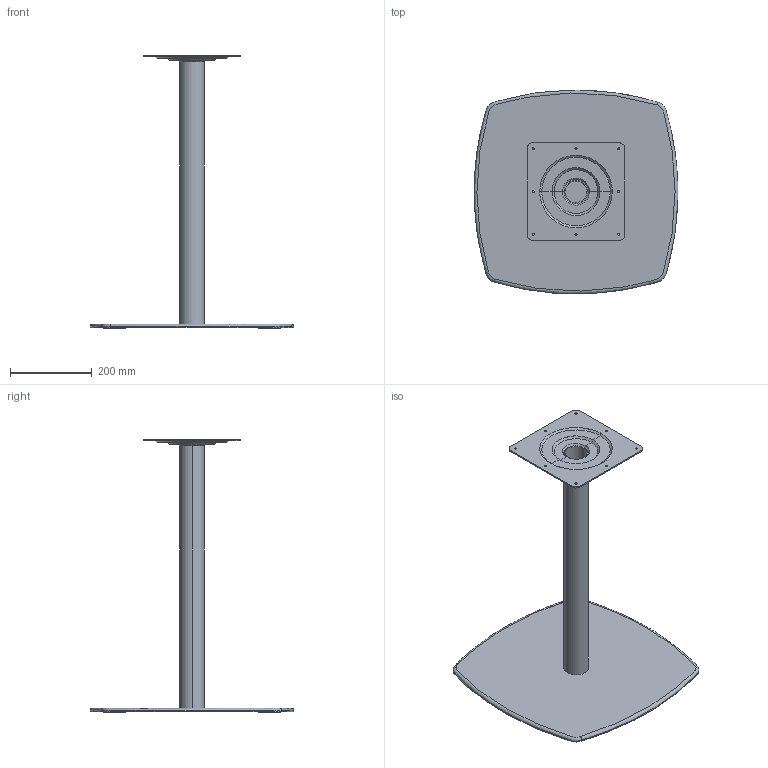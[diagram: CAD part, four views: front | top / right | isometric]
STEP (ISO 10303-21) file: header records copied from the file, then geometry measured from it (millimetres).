
FILE_DESCRIPTION(/* description */ (''),/* implementation_level */ '2;1');
FILE_NAME(/* name */ 'kinoshita_abord_tl006-2',/* time_stamp */ '2024-10-01T15:19:53+09:00',/* author */ (''),/* organization */ (''),/* preprocessor_version */ 'ST-DEVELOPER v16.5',/* originating_system */ '',/* authorisation */ '');
FILE_SCHEMA (('AUTOMOTIVE_DESIGN'));
Length unit declared in the file: millimetre
Products named in the file (1): Document
Bounding box: 499.92 x 499.74 x 670 mm (x, y, z)
Volume: 2261293.5 mm3; surface area: 808485.2 mm2
Topology: 1 solids, 1 shells, 81 faces, 190 edges, 118 vertices
Faces by surface type: bspline 52, plane 29
Entity records: 2745 total; most frequent: CARTESIAN_POINT 1619, ORIENTED_EDGE 380, EDGE_CURVE 190, VERTEX_POINT 118, EDGE_LOOP 104, ADVANCED_FACE 81, FACE_OUTER_BOUND 81, B_SPLINE_CURVE_WITH_KNOTS 37
